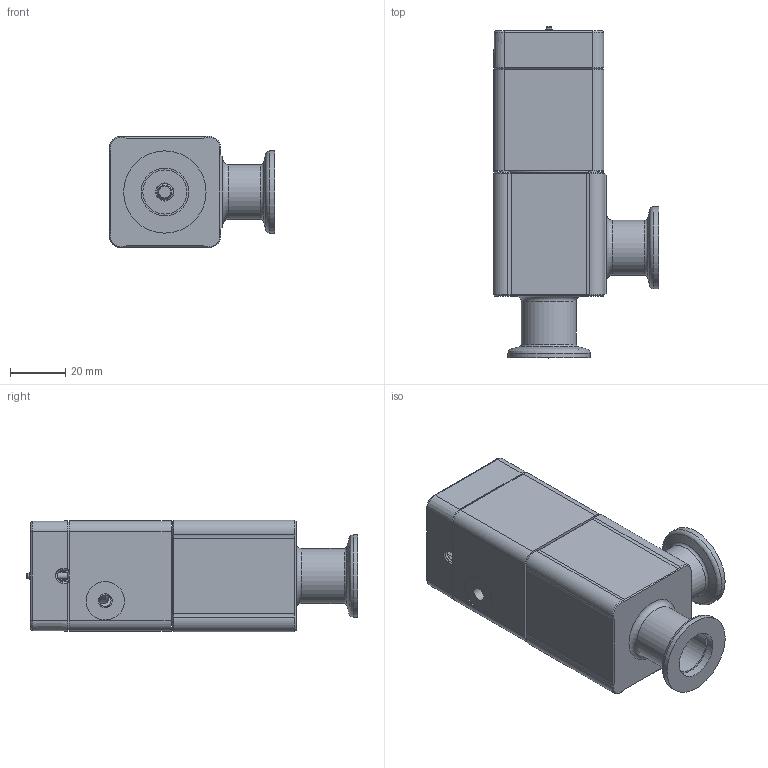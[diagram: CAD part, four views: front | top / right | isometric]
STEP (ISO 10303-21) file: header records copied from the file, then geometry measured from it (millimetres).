
FILE_DESCRIPTION(/* description */ (''),/* implementation_level */ '2;1');
FILE_NAME(/* name */ '1720943616_203.stp',/* time_stamp */ '2013-10-23T09:13:25+02:00',/* author */ (''),/* organization */ (''),/* preprocessor_version */ 'ST-DEVELOPER v11',/* originating_system */ 'SIEMENS PLM Software NX 7.5',/* authorisation */ '');
FILE_SCHEMA (('AP203_CONFIGURATION_CONTROLLED_3D_DESIGN_OF_MECHANICAL_PARTS_AND_ASSEMBLIES_MIM_LF'));
Length unit declared in the file: millimetre
Products named in the file (8): 233364; 236204_1.1; 242421.3; 243880.7; 244224.1; 244168.6; 239982.4; 323042
Assembly tree (11 placements, depth 3):
  323042
    244168.6
    244224.1  x4
    243880.7
    239982.4
      236204_1.1  x2
      233364
    242421.3
Bounding box: 60.29 x 120.6 x 40.57 mm (x, y, z)
Volume: 96636.9 mm3; surface area: 50473.8 mm2
Topology: 18 solids, 18 shells, 537 faces, 1297 edges, 834 vertices
Faces by surface type: plane 279, cylinder 127, cone 92, bspline 29, torus 10
Full cylindrical faces by diameter (mm): 2 x1, 2.3 x1, 2.36 x4, 2.4 x4, 2.5 x7, 3 x15, 3.4 x4, 4 x2, 4.2 x1, 4.7 x3, 4.8 x1, 5 x2, 5.5 x4, 5.6 x2, 6 x4, 6.013 x2, 6.5 x4, 8.85 x1, 14 x1, 16 x2, 17 x1, 17.3 x2, 20 x3, 24.6 x1, 28 x1, 29.87 x1, 29.912 x1, 30.08 x1, 32.35 x1, 35.9 x1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
Entity records: 15132 total; most frequent: CARTESIAN_POINT 3213, DIRECTION 2175, ORIENTED_EDGE 1970, EDGE_CURVE 985, AXIS2_PLACEMENT_3D 803, VERTEX_POINT 711, EDGE_LOOP 658, LINE 569
